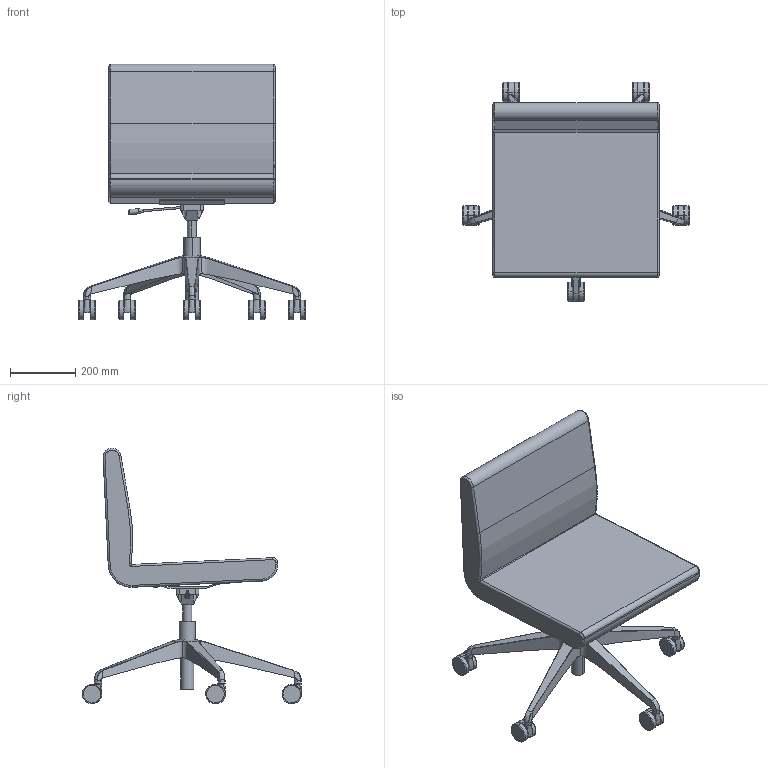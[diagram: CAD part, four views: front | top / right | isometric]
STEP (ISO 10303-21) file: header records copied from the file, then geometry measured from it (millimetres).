
FILE_DESCRIPTION(/* description */ (''),/* implementation_level */ '2;1');
FILE_NAME(/* name */ 'DELTAF~1',/* time_stamp */ '2016-06-29T12:25:58+02:00',/* author */ (''),/* organization */ (''),/* preprocessor_version */ 'ST-DEVELOPER v15',/* originating_system */ '',/* authorisation */ '');
FILE_SCHEMA (('CONFIG_CONTROL_DESIGN'));
Length unit declared in the file: millimetre
Products named in the file (1): Document
Bounding box: 694.82 x 673.73 x 785.18 mm (x, y, z)
Volume: 30787662.2 mm3; surface area: 1443769 mm2
Topology: 4 solids, 34 shells, 311 faces, 737 edges, 429 vertices
Faces by surface type: bspline 233, plane 78
Entity records: 15409 total; most frequent: CARTESIAN_POINT 11261, ORIENTED_EDGE 1308, EDGE_CURVE 709, VERTEX_POINT 423, ADVANCED_FACE 311, FACE_OUTER_BOUND 311, EDGE_LOOP 311, B_SPLINE_CURVE_WITH_KNOTS 311
